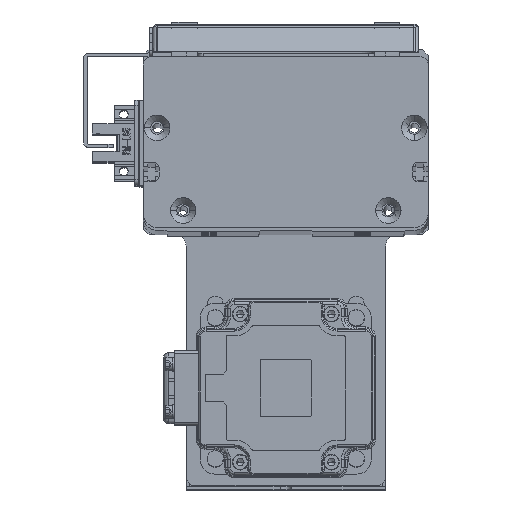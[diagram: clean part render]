
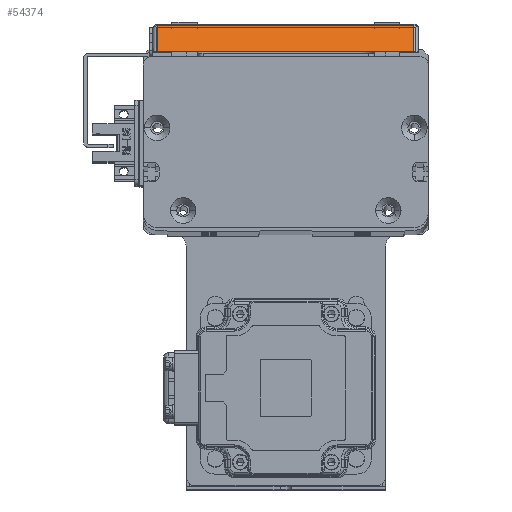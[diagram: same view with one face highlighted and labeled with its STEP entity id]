
A CAD part, top view. The second image highlights one B-rep face of the part: STEP entity #54374.
In plain terms, the highlighted planar face has unit normal (0, 0.707, 0.707) as drawn and (-0.707, 0, -0.707) by its records, which use the part's own axes.
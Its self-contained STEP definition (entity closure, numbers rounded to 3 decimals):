
#2684 = LINE ( 'NONE', #16147, #63437 ) ;
#5519 = ORIENTED_EDGE ( 'NONE', *, *, #24662, .T. ) ;
#8127 = DIRECTION ( 'NONE',  ( 0.707, 0., -0.707 ) ) ;
#9022 = DIRECTION ( 'NONE',  ( -0.707, 0., -0.707 ) ) ;
#14915 = EDGE_LOOP ( 'NONE', ( #5519, #70456, #38155, #16714 ) ) ;
#16147 = CARTESIAN_POINT ( 'NONE',  ( -68., 1.7, 5.6 ) ) ;
#16714 = ORIENTED_EDGE ( 'NONE', *, *, #61569, .T. ) ;
#17415 = VERTEX_POINT ( 'NONE', #26508 ) ;
#24662 = EDGE_CURVE ( 'NONE', #17415, #42553, #2684, .T. ) ;
#25130 = LINE ( 'NONE', #70103, #51549 ) ;
#26508 = CARTESIAN_POINT ( 'NONE',  ( -57.298, 1.7, -5.102 ) ) ;
#28024 = VERTEX_POINT ( 'NONE', #53365 ) ;
#29070 = VECTOR ( 'NONE', #30219, 1000. ) ;
#30219 = DIRECTION ( 'NONE',  ( 0., -1., 0. ) ) ;
#32128 = DIRECTION ( 'NONE',  ( -0.707, 0., 0.707 ) ) ;
#33206 = VECTOR ( 'NONE', #8127, 1000. ) ;
#35984 = FACE_OUTER_BOUND ( 'NONE', #14915, .T. ) ;
#36401 = VERTEX_POINT ( 'NONE', #64762 ) ;
#37590 = LINE ( 'NONE', #41194, #29070 ) ;
#38155 = ORIENTED_EDGE ( 'NONE', *, *, #48853, .T. ) ;
#39250 = EDGE_CURVE ( 'NONE', #42553, #28024, #25130, .T. ) ;
#41194 = CARTESIAN_POINT ( 'NONE',  ( -57.298, 93.4, -5.102 ) ) ;
#41762 = CARTESIAN_POINT ( 'NONE',  ( -68., 93.4, 5.6 ) ) ;
#42553 = VERTEX_POINT ( 'NONE', #67443 ) ;
#48853 = EDGE_CURVE ( 'NONE', #28024, #36401, #69131, .T. ) ;
#51549 = VECTOR ( 'NONE', #53102, 1000. ) ;
#53102 = DIRECTION ( 'NONE',  ( 0., 1., 0. ) ) ;
#53365 = CARTESIAN_POINT ( 'NONE',  ( -66.5, 91.7, 4.1 ) ) ;
#54374 = ADVANCED_FACE ( 'NONE', ( #35984 ), #63328, .T. ) ;
#60936 = AXIS2_PLACEMENT_3D ( 'NONE', #41762, #9022, #69237 ) ;
#61569 = EDGE_CURVE ( 'NONE', #36401, #17415, #37590, .T. ) ;
#63150 = CARTESIAN_POINT ( 'NONE',  ( -68., 91.7, 5.6 ) ) ;
#63328 = PLANE ( 'NONE',  #60936 ) ;
#63437 = VECTOR ( 'NONE', #32128, 1000. ) ;
#64762 = CARTESIAN_POINT ( 'NONE',  ( -57.298, 91.7, -5.102 ) ) ;
#67443 = CARTESIAN_POINT ( 'NONE',  ( -66.5, 1.7, 4.1 ) ) ;
#69131 = LINE ( 'NONE', #63150, #33206 ) ;
#69237 = DIRECTION ( 'NONE',  ( -0.707, 0., 0.707 ) ) ;
#70103 = CARTESIAN_POINT ( 'NONE',  ( -66.5, 93.4, 4.1 ) ) ;
#70456 = ORIENTED_EDGE ( 'NONE', *, *, #39250, .T. ) ;
